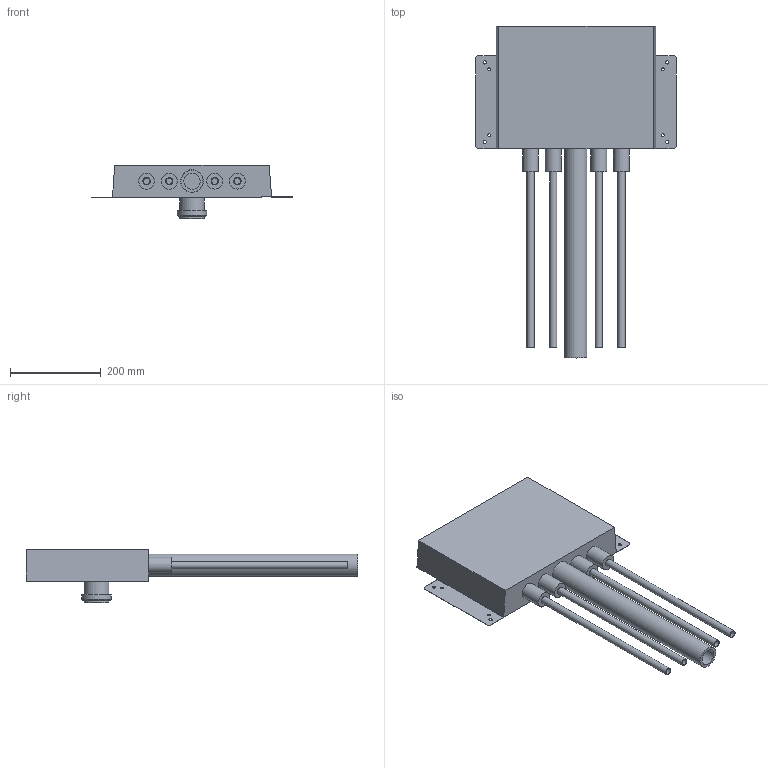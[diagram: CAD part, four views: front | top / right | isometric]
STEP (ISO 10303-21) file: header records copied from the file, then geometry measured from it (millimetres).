
FILE_DESCRIPTION(/* description */ (''),/* implementation_level */ '2;1');
FILE_NAME(/* name */ '\\LG50011\SANHA_Legnica\Engineering\Public\PROJEKTY\SANHA-BOX_Support_BiR\002-Rysunki_Boxów\25-STZ-T\Zespół-25STZT16.stp',/* time_stamp */ '2018-11-05T14:33:19+01:00',/* author */ ('gomulka'),/* organization */ (''),/* preprocessor_version */ 'ST-DEVELOPER v16.13',/* originating_system */ 'Autodesk Inventor 2018',/* authorisation */ '');
FILE_SCHEMA (('AUTOMOTIVE_DESIGN { 1 0 10303 214 3 1 1 }'));
Length unit declared in the file: millimetre
Products named in the file (6): Zespół-25STZT16; Rura_50; Kolano_DN50-OD50; Plyta1; 325STZT16; Rura_16x2
Assembly tree (9 placements, depth 2):
  Zespół-25STZT16
    Rura_50
    Rura_16x2  x4
    Kolano_DN50-OD50
    Plyta1  x2
    325STZT16
Bounding box: 441.9 x 730.16 x 118.05 mm (x, y, z)
Volume: 7139482.4 mm3; surface area: 698176.8 mm2
Topology: 9 solids, 9 shells, 164 faces, 364 edges, 242 vertices
Faces by surface type: plane 110, cylinder 36, bspline 16, cone 2
Full cylindrical faces by diameter (mm): 6.1 x4, 7 x4, 14 x4, 16 x8, 18.631 x2, 21 x2, 35 x4, 35.993 x1, 48.5 x1, 50 x1, 51 x1, 55 x3, 65 x1
Entity records: 4148 total; most frequent: CARTESIAN_POINT 861, DIRECTION 588, ORIENTED_EDGE 576, EDGE_CURVE 288, VERTEX_POINT 210, EDGE_LOOP 206, LINE 202, VECTOR 202
